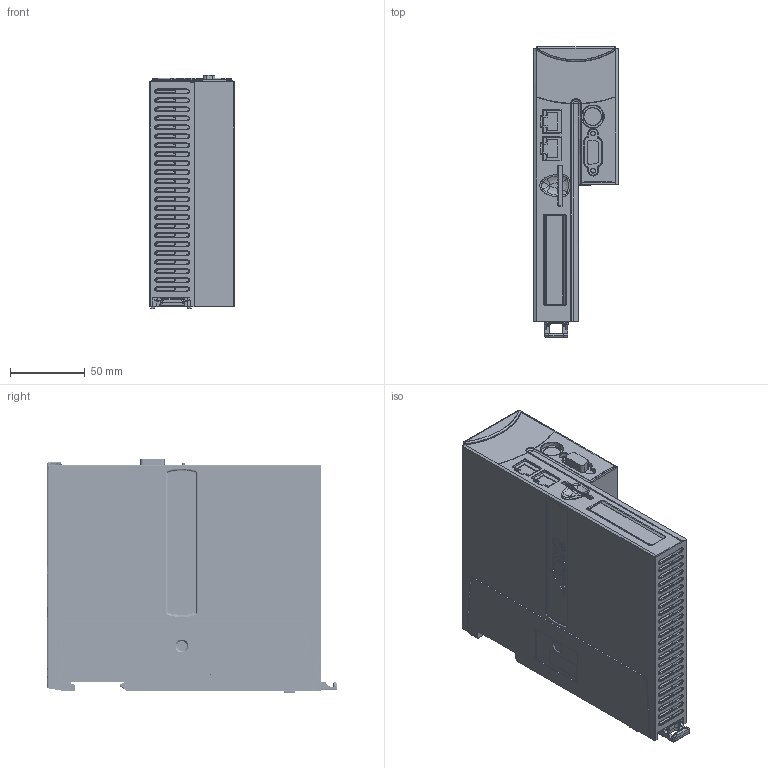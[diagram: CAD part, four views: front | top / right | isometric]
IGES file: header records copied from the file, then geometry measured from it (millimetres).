
Start section: SolidWorks IGES file using analytic representation for surfaces
Global section: file name: S:\Tro-01\BLOCK SOLID MODELS\MC_464_MAIN_UNIT.IGS; native system: SolidWorks 2011; preprocessor: SolidWorks 2011; author: Ross; date: 111124.162949; units: millimetre
Bounding box: 56.6 x 194.72 x 156.85 mm (x, y, z)
Surface area: 115855.1 mm2 (no closed solid volume)
Topology: 0 solids, 0 shells, 2686 faces, 24223 edges, 24047 vertices
Faces by surface type: bspline 2056, revolution 630
